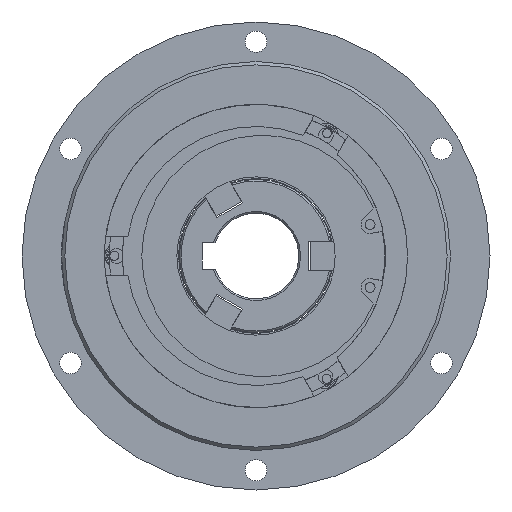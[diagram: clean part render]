
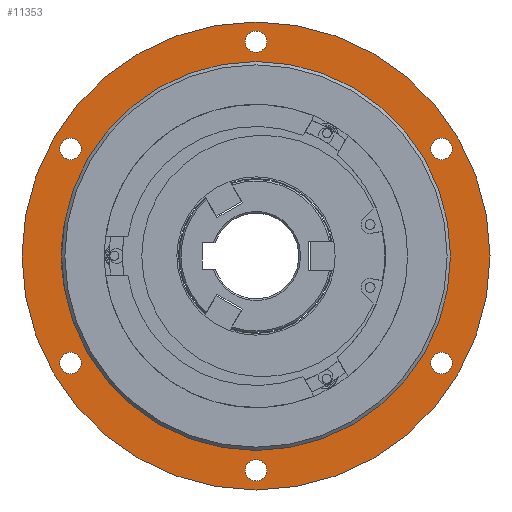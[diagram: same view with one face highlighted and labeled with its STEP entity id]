
A CAD part, left-side view. The second image highlights one B-rep face of the part: STEP entity #11353.
In plain terms, the highlighted planar face has unit normal (-1, 0, 0).
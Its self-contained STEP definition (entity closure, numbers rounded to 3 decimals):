
#102=FACE_BOUND('',#1947,.T.);
#103=FACE_BOUND('',#1948,.T.);
#104=FACE_BOUND('',#1949,.T.);
#105=FACE_BOUND('',#1950,.T.);
#106=FACE_BOUND('',#1951,.T.);
#107=FACE_BOUND('',#1952,.T.);
#108=FACE_BOUND('',#1953,.T.);
#402=PLANE('',#12129);
#1317=FACE_OUTER_BOUND('',#1946,.T.);
#1946=EDGE_LOOP('',(#8599,#8600));
#1947=EDGE_LOOP('',(#8601));
#1948=EDGE_LOOP('',(#8602));
#1949=EDGE_LOOP('',(#8603));
#1950=EDGE_LOOP('',(#8604));
#1951=EDGE_LOOP('',(#8605));
#1952=EDGE_LOOP('',(#8606));
#1953=EDGE_LOOP('',(#8607,#8608));
#2970=CIRCLE('',#12130,71.);
#2971=CIRCLE('',#12131,71.);
#2972=CIRCLE('',#12132,3.25);
#2973=CIRCLE('',#12133,3.25);
#2974=CIRCLE('',#12134,3.25);
#2975=CIRCLE('',#12135,3.25);
#2976=CIRCLE('',#12136,3.25);
#2977=CIRCLE('',#12137,3.25);
#2978=CIRCLE('',#12138,59.);
#2979=CIRCLE('',#12139,59.);
#5178=VERTEX_POINT('',#29228);
#5179=VERTEX_POINT('',#29229);
#5180=VERTEX_POINT('',#29232);
#5181=VERTEX_POINT('',#29234);
#5182=VERTEX_POINT('',#29236);
#5183=VERTEX_POINT('',#29238);
#5184=VERTEX_POINT('',#29240);
#5185=VERTEX_POINT('',#29242);
#5186=VERTEX_POINT('',#29244);
#5187=VERTEX_POINT('',#29245);
#6491=EDGE_CURVE('',#5178,#5179,#2970,.T.);
#6492=EDGE_CURVE('',#5179,#5178,#2971,.T.);
#6493=EDGE_CURVE('',#5180,#5180,#2972,.T.);
#6494=EDGE_CURVE('',#5181,#5181,#2973,.T.);
#6495=EDGE_CURVE('',#5182,#5182,#2974,.T.);
#6496=EDGE_CURVE('',#5183,#5183,#2975,.T.);
#6497=EDGE_CURVE('',#5184,#5184,#2976,.T.);
#6498=EDGE_CURVE('',#5185,#5185,#2977,.T.);
#6499=EDGE_CURVE('',#5186,#5187,#2978,.T.);
#6500=EDGE_CURVE('',#5187,#5186,#2979,.T.);
#8599=ORIENTED_EDGE('',*,*,#6491,.F.);
#8600=ORIENTED_EDGE('',*,*,#6492,.F.);
#8601=ORIENTED_EDGE('',*,*,#6493,.T.);
#8602=ORIENTED_EDGE('',*,*,#6494,.T.);
#8603=ORIENTED_EDGE('',*,*,#6495,.T.);
#8604=ORIENTED_EDGE('',*,*,#6496,.T.);
#8605=ORIENTED_EDGE('',*,*,#6497,.T.);
#8606=ORIENTED_EDGE('',*,*,#6498,.T.);
#8607=ORIENTED_EDGE('',*,*,#6499,.T.);
#8608=ORIENTED_EDGE('',*,*,#6500,.T.);
#11353=ADVANCED_FACE('',(#1317,#102,#103,#104,#105,#106,#107,#108),#402,
 .T.);
#12129=AXIS2_PLACEMENT_3D('',#29227,#13780,#13781);
#12130=AXIS2_PLACEMENT_3D('',#29230,#13782,#13783);
#12131=AXIS2_PLACEMENT_3D('',#29231,#13784,#13785);
#12132=AXIS2_PLACEMENT_3D('',#29233,#13786,#13787);
#12133=AXIS2_PLACEMENT_3D('',#29235,#13788,#13789);
#12134=AXIS2_PLACEMENT_3D('',#29237,#13790,#13791);
#12135=AXIS2_PLACEMENT_3D('',#29239,#13792,#13793);
#12136=AXIS2_PLACEMENT_3D('',#29241,#13794,#13795);
#12137=AXIS2_PLACEMENT_3D('',#29243,#13796,#13797);
#12138=AXIS2_PLACEMENT_3D('',#29246,#13798,#13799);
#12139=AXIS2_PLACEMENT_3D('',#29247,#13800,#13801);
#13780=DIRECTION('center_axis',(-1.,0.,0.));
#13781=DIRECTION('ref_axis',(0.,0.866,0.5));
#13782=DIRECTION('center_axis',(1.,0.,0.));
#13783=DIRECTION('ref_axis',(0.,0.5,-0.866));
#13784=DIRECTION('center_axis',(1.,0.,0.));
#13785=DIRECTION('ref_axis',(0.,0.5,-0.866));
#13786=DIRECTION('center_axis',(1.,0.,0.));
#13787=DIRECTION('ref_axis',(0.,-0.866,-0.5));
#13788=DIRECTION('center_axis',(1.,0.,0.));
#13789=DIRECTION('ref_axis',(0.,-0.866,-0.5));
#13790=DIRECTION('center_axis',(1.,0.,0.));
#13791=DIRECTION('ref_axis',(0.,-0.866,-0.5));
#13792=DIRECTION('center_axis',(1.,0.,0.));
#13793=DIRECTION('ref_axis',(0.,-0.866,-0.5));
#13794=DIRECTION('center_axis',(1.,0.,0.));
#13795=DIRECTION('ref_axis',(0.,-0.866,-0.5));
#13796=DIRECTION('center_axis',(1.,0.,0.));
#13797=DIRECTION('ref_axis',(0.,-0.866,-0.5));
#13798=DIRECTION('center_axis',(1.,0.,0.));
#13799=DIRECTION('ref_axis',(0.,1.,0.));
#13800=DIRECTION('center_axis',(1.,0.,0.));
#13801=DIRECTION('ref_axis',(0.,1.,0.));
#29227=CARTESIAN_POINT('Origin',(3.,30.25,-52.395));
#29228=CARTESIAN_POINT('',(3.,35.5,-61.488));
#29229=CARTESIAN_POINT('',(3.,-35.5,61.488));
#29230=CARTESIAN_POINT('Origin',(3.,0.,
0.));
#29231=CARTESIAN_POINT('Origin',(3.,0.,
0.));
#29232=CARTESIAN_POINT('',(3.,59.106,34.125));
#29233=CARTESIAN_POINT('Origin',(3.,56.292,32.5));
#29234=CARTESIAN_POINT('',(3.,2.815,66.625));
#29235=CARTESIAN_POINT('Origin',(3.,0.,65.));
#29236=CARTESIAN_POINT('',(3.,-53.477,34.125));
#29237=CARTESIAN_POINT('Origin',(3.,-56.292,32.5));
#29238=CARTESIAN_POINT('',(3.,-53.477,-30.875));
#29239=CARTESIAN_POINT('Origin',(3.,-56.292,-32.5));
#29240=CARTESIAN_POINT('',(3.,2.815,-63.375));
#29241=CARTESIAN_POINT('Origin',(3.,0.,
-65.));
#29242=CARTESIAN_POINT('',(3.,59.106,-30.875));
#29243=CARTESIAN_POINT('Origin',(3.,56.292,-32.5));
#29244=CARTESIAN_POINT('',(3.,59.,0.));
#29245=CARTESIAN_POINT('',(3.,-59.,0.));
#29246=CARTESIAN_POINT('Origin',(3.,0.,
0.));
#29247=CARTESIAN_POINT('Origin',(3.,0.,
0.));
